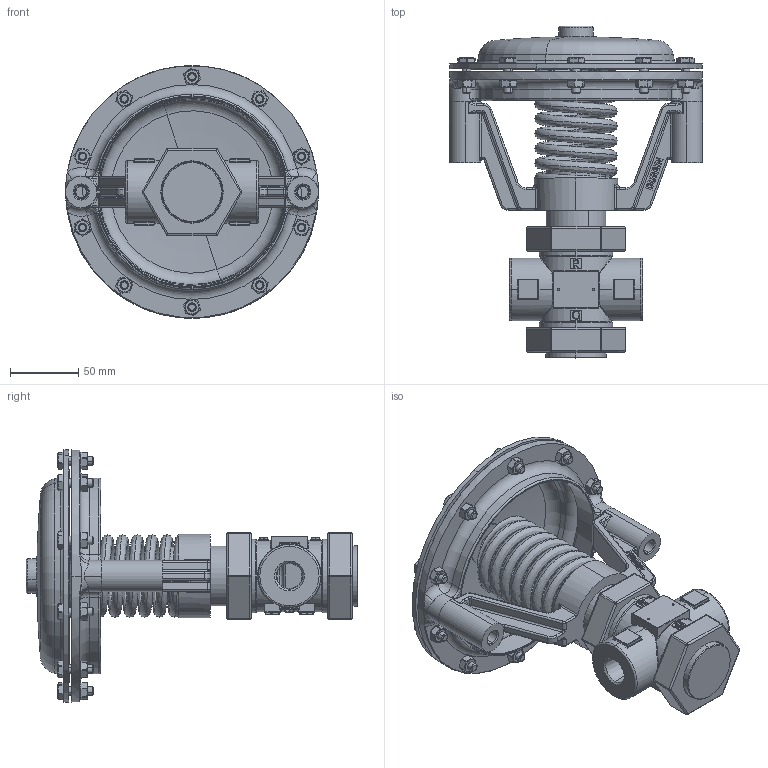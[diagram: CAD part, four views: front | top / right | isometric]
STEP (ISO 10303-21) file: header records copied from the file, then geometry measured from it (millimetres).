
FILE_DESCRIPTION (( 'STEP AP203' ), '1' );
FILE_NAME ('.50-.75 2W NPT D500-STEP.STEP', '2018-11-07T18:37:31', ( '' ), ( '' ), 'SwSTEP 2.0', 'SolidWorks 2012', '' );
FILE_SCHEMA (( 'CONFIG_CONTROL_DESIGN' ));
Products named in the file (13): .50-.75 2W NPT D500-STEP; H096-10; H060-03; D293-028-5DR; C293-023DR; D771; C293-023DM; C893-015D-SS; D283-025D-SS; C663-022D-SS; C213-016D-SS; C113-056D; VP400-SS
Assembly tree (31 placements, depth 3):
  .50-.75 2W NPT D500-STEP
    VP400-SS
    C113-056D
    C213-016D-SS
    C663-022D-SS  x2
    D283-025D-SS
    C893-015D-SS
    C293-023DR
      C293-023DM
      D771
    D293-028-5DR
    H060-03  x10
    H096-10  x10
Bounding box: 185.42 x 242.4 x 184.53 mm (x, y, z)
Volume: 651216.1 mm3; surface area: 273161.7 mm2
Topology: 30 solids, 30 shells, 3055 faces, 7143 edges, 4150 vertices
Faces by surface type: plane 914, cylinder 619, bspline 584, cone 379, sphere 298, torus 261
Entity records: 87593 total; most frequent: CARTESIAN_POINT 40513, ORIENTED_EDGE 10006, DIRECTION 8451, EDGE_CURVE 5003, AXIS2_PLACEMENT_3D 3152, VERTEX_POINT 3106, EDGE_LOOP 2213, LINE 2147
